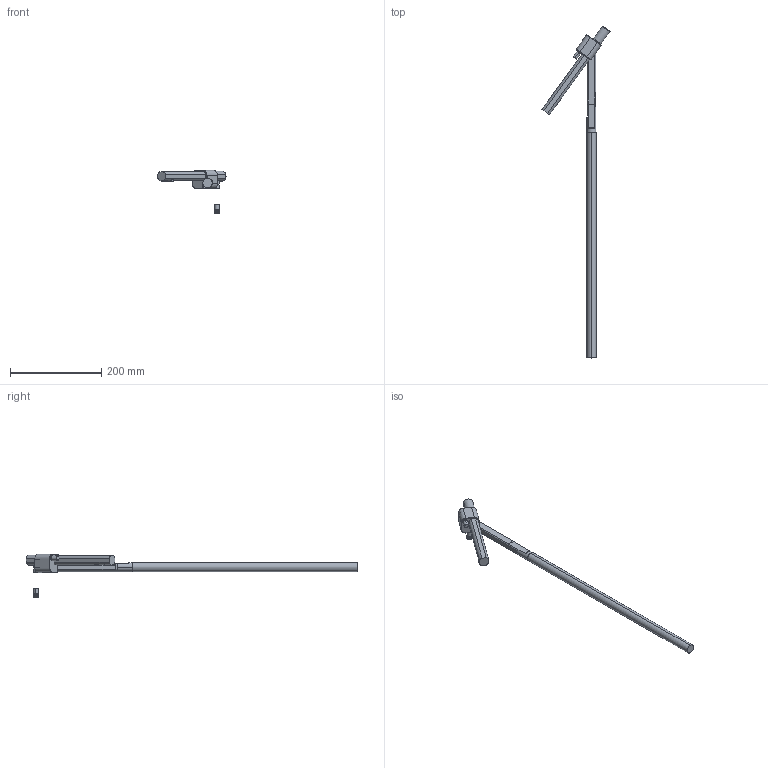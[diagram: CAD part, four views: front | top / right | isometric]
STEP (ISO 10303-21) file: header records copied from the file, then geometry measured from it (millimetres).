
FILE_DESCRIPTION (( 'STEP AP214' ), '1' );
FILE_NAME ('XR40100L-36-S-00.STEP', '2024-07-28T19:38:23', ( '' ), ( '' ), 'SwSTEP 2.0', 'SolidWorks 2021', '' );
FILE_SCHEMA (( 'AUTOMOTIVE_DESIGN' ));
Length unit declared in the file: millimetre
Products named in the file (8): 9DR4010FR_Predeterminado; 9DRXX-AL_9DR40-AL; 9DRXXXX-TOR_9DR4010-TOR; 9DRXXXXFF_9DR4010FF; XR40100L-EV-S_EVXR40-36-00; XR40100L-BASE-S_BASE40-36; XR40100L-EI-S_EIXR40-36-00; XR40100L-36-S-00
Assembly tree (7 placements, depth 2):
  XR40100L-36-S-00
    XR40100L-BASE-S_BASE40-36
    XR40100L-EV-S_EVXR40-36-00
    XR40100L-EI-S_EIXR40-36-00
    9DRXXXXFF_9DR4010FF
    9DRXXXX-TOR_9DR4010-TOR
    9DRXX-AL_9DR40-AL
    9DR4010FR_Predeterminado
Bounding box: 149.14 x 728 x 95.2 mm (x, y, z)
Volume: 328343.7 mm3; surface area: 80426.2 mm2
Topology: 8 solids, 8 shells, 247 faces, 592 edges, 371 vertices
Faces by surface type: plane 102, cylinder 75, cone 56, bspline 11, torus 3
Entity records: 9682 total; most frequent: CARTESIAN_POINT 3789, ORIENTED_EDGE 1172, DIRECTION 1138, EDGE_CURVE 586, AXIS2_PLACEMENT_3D 422, VERTEX_POINT 371, VECTOR 294, LINE 294
